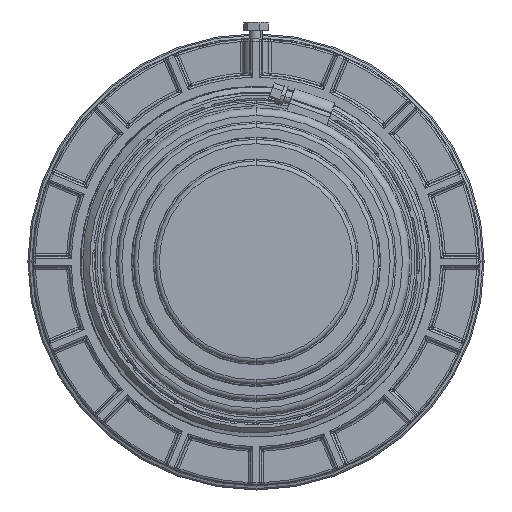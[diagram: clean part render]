
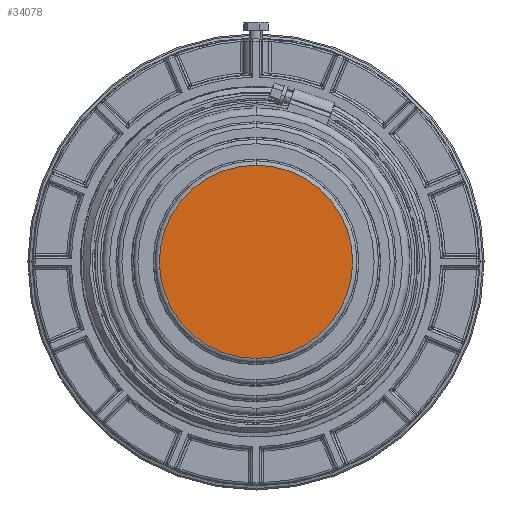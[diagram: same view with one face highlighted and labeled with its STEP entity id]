
A CAD part, front view. The second image highlights one B-rep face of the part: STEP entity #34078.
In plain terms, the highlighted planar face has unit normal (0, -1, 0).
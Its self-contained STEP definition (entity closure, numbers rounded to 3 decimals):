
#3632 = CARTESIAN_POINT ( 'NONE',  ( -45.537, -72.327, 0. ) ) ;
#3634 = FACE_OUTER_BOUND ( 'NONE', #70392, .T. ) ;
#3635 = PLANE ( 'NONE',  #44043 ) ;
#3638 = DIRECTION ( 'NONE',  ( 0., -1., 0. ) ) ;
#3639 = DIRECTION ( 'NONE',  ( 0., 0., -1. ) ) ;
#17595 = CIRCLE ( 'NONE', #17600, 45.537 ) ;
#17600 = AXIS2_PLACEMENT_3D ( 'NONE', #40194, #40195, #40196 ) ;
#18743 = EDGE_CURVE ( 'NONE', #26459, #26481, #17595, .T. ) ;
#23647 = CARTESIAN_POINT ( 'NONE',  ( 0., -72.327, 0. ) ) ;
#23648 = DIRECTION ( 'NONE',  ( 0., 1., 0. ) ) ;
#23649 = DIRECTION ( 'NONE',  ( 0., 0., 1. ) ) ;
#26459 = VERTEX_POINT ( 'NONE', #32960 ) ;
#26481 = VERTEX_POINT ( 'NONE', #32980 ) ;
#32960 = CARTESIAN_POINT ( 'NONE',  ( 0., -72.327, 45.537 ) ) ;
#32980 = CARTESIAN_POINT ( 'NONE',  ( 0., -72.327, -45.537 ) ) ;
#34078 = ADVANCED_FACE ( 'NONE', ( #3634 ), #3635, .T. ) ;
#40194 = CARTESIAN_POINT ( 'NONE',  ( 0., -72.327, 0. ) ) ;
#40195 = DIRECTION ( 'NONE',  ( 0., 1., 0. ) ) ;
#40196 = DIRECTION ( 'NONE',  ( 0., 0., 1. ) ) ;
#40742 = EDGE_CURVE ( 'NONE', #26481, #26459, #66539, .T. ) ;
#44043 = AXIS2_PLACEMENT_3D ( 'NONE', #3632, #3638, #3639 ) ;
#64717 = ORIENTED_EDGE ( 'NONE', *, *, #18743, .F. ) ;
#64719 = ORIENTED_EDGE ( 'NONE', *, *, #40742, .F. ) ;
#66539 = CIRCLE ( 'NONE', #66542, 45.537 ) ;
#66542 = AXIS2_PLACEMENT_3D ( 'NONE', #23647, #23648, #23649 ) ;
#70392 = EDGE_LOOP ( 'NONE', ( #64717, #64719 ) ) ;
